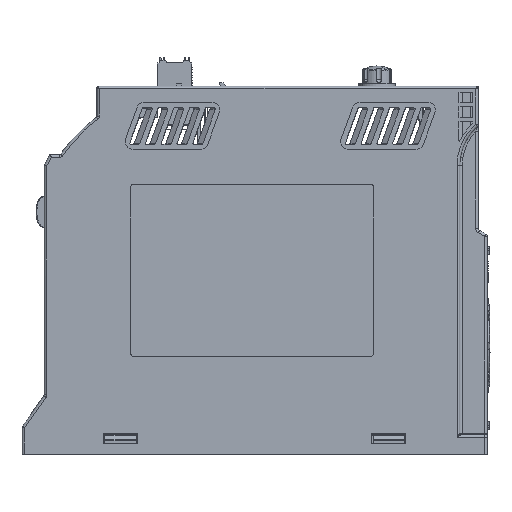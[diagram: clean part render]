
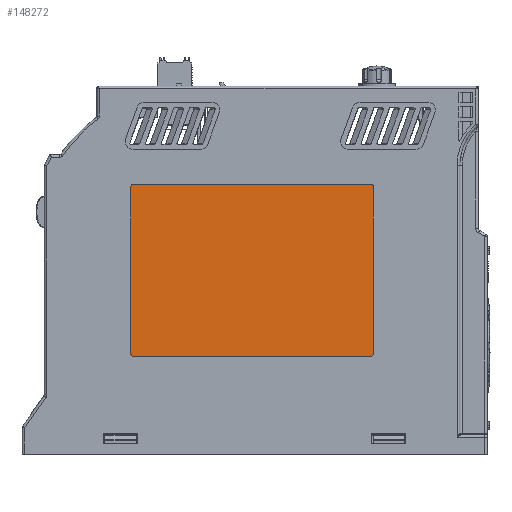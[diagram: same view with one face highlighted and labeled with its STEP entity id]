
A CAD part, top view. The second image highlights one B-rep face of the part: STEP entity #148272.
In plain terms, the highlighted planar face has unit normal (0, 0, 1).
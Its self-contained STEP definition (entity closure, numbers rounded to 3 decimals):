
#2744 = VECTOR ( 'NONE', #191328, 1000. ) ;
#4925 = CARTESIAN_POINT ( 'NONE',  ( -115.892, 15.828, 289.425 ) ) ;
#5916 = DIRECTION ( 'NONE',  ( 0., 0., 1. ) ) ;
#8455 = CIRCLE ( 'NONE', #166445, 1. ) ;
#8660 = VERTEX_POINT ( 'NONE', #122756 ) ;
#13226 = ORIENTED_EDGE ( 'NONE', *, *, #137934, .T. ) ;
#13898 = DIRECTION ( 'NONE',  ( 0., 0., 1. ) ) ;
#15325 = EDGE_CURVE ( 'NONE', #70950, #94351, #26382, .T. ) ;
#26382 = CIRCLE ( 'NONE', #75993, 1. ) ;
#27690 = EDGE_CURVE ( 'NONE', #71896, #177384, #8455, .T. ) ;
#30492 = CIRCLE ( 'NONE', #58318, 1. ) ;
#33194 = VERTEX_POINT ( 'NONE', #62171 ) ;
#36813 = ORIENTED_EDGE ( 'NONE', *, *, #50554, .T. ) ;
#39659 = CARTESIAN_POINT ( 'NONE',  ( -24.692, 15.828, 289.425 ) ) ;
#39799 = VECTOR ( 'NONE', #40606, 1000. ) ;
#40606 = DIRECTION ( 'NONE',  ( 0., -1., 0. ) ) ;
#45163 = CARTESIAN_POINT ( 'NONE',  ( -115.892, -48.672, 289.425 ) ) ;
#45901 = VERTEX_POINT ( 'NONE', #139565 ) ;
#46182 = AXIS2_PLACEMENT_3D ( 'NONE', #153340, #5916, #76826 ) ;
#48029 = LINE ( 'NONE', #91639, #167767 ) ;
#50501 = FACE_OUTER_BOUND ( 'NONE', #102814, .T. ) ;
#50554 = EDGE_CURVE ( 'NONE', #94351, #71896, #48029, .T. ) ;
#55523 = CIRCLE ( 'NONE', #46182, 1. ) ;
#56097 = CARTESIAN_POINT ( 'NONE',  ( -116.892, -47.672, 289.425 ) ) ;
#56653 = CARTESIAN_POINT ( 'NONE',  ( -25.692, 15.828, 289.425 ) ) ;
#58318 = AXIS2_PLACEMENT_3D ( 'NONE', #164164, #178684, #134072 ) ;
#62171 = CARTESIAN_POINT ( 'NONE',  ( -25.692, -48.672, 289.425 ) ) ;
#63443 = ORIENTED_EDGE ( 'NONE', *, *, #159652, .T. ) ;
#70950 = VERTEX_POINT ( 'NONE', #39659 ) ;
#71896 = VERTEX_POINT ( 'NONE', #82913 ) ;
#75993 = AXIS2_PLACEMENT_3D ( 'NONE', #56653, #13898, #103083 ) ;
#76826 = DIRECTION ( 'NONE',  ( 1., 0., 0. ) ) ;
#82913 = CARTESIAN_POINT ( 'NONE',  ( -115.892, 16.828, 289.425 ) ) ;
#83776 = LINE ( 'NONE', #115641, #2744 ) ;
#91639 = CARTESIAN_POINT ( 'NONE',  ( -115.892, 16.828, 289.425 ) ) ;
#93800 = AXIS2_PLACEMENT_3D ( 'NONE', #4925, #184330, #94118 ) ;
#94118 = DIRECTION ( 'NONE',  ( -1., 0., 0. ) ) ;
#94351 = VERTEX_POINT ( 'NONE', #96556 ) ;
#96556 = CARTESIAN_POINT ( 'NONE',  ( -25.692, 16.828, 289.425 ) ) ;
#102356 = DIRECTION ( 'NONE',  ( 1., 0., 0. ) ) ;
#102814 = EDGE_LOOP ( 'NONE', ( #156212, #13226, #63443, #143477, #184147, #153593, #172877, #36813 ) ) ;
#103083 = DIRECTION ( 'NONE',  ( -1., 0., 0. ) ) ;
#107628 = EDGE_CURVE ( 'NONE', #8660, #33194, #149816, .T. ) ;
#107886 = CARTESIAN_POINT ( 'NONE',  ( -115.892, 15.828, 289.425 ) ) ;
#111157 = EDGE_CURVE ( 'NONE', #45901, #70950, #83776, .T. ) ;
#115641 = CARTESIAN_POINT ( 'NONE',  ( -24.692, -47.672, 289.425 ) ) ;
#122464 = DIRECTION ( 'NONE',  ( 0., 0., 1. ) ) ;
#122756 = CARTESIAN_POINT ( 'NONE',  ( -115.892, -48.672, 289.425 ) ) ;
#128000 = VECTOR ( 'NONE', #102356, 1000. ) ;
#134072 = DIRECTION ( 'NONE',  ( -1., 0., 0. ) ) ;
#137934 = EDGE_CURVE ( 'NONE', #177384, #174981, #172502, .T. ) ;
#139565 = CARTESIAN_POINT ( 'NONE',  ( -24.692, -47.672, 289.425 ) ) ;
#143477 = ORIENTED_EDGE ( 'NONE', *, *, #107628, .T. ) ;
#148272 = ADVANCED_FACE ( 'NONE', ( #50501 ), #151311, .F. ) ;
#149816 = LINE ( 'NONE', #45163, #128000 ) ;
#151311 = PLANE ( 'NONE',  #93800 ) ;
#153340 = CARTESIAN_POINT ( 'NONE',  ( -25.692, -47.672, 289.425 ) ) ;
#153593 = ORIENTED_EDGE ( 'NONE', *, *, #111157, .T. ) ;
#156212 = ORIENTED_EDGE ( 'NONE', *, *, #27690, .T. ) ;
#159652 = EDGE_CURVE ( 'NONE', #174981, #8660, #30492, .T. ) ;
#163437 = DIRECTION ( 'NONE',  ( -1., 0., 0. ) ) ;
#164164 = CARTESIAN_POINT ( 'NONE',  ( -115.892, -47.672, 289.425 ) ) ;
#166445 = AXIS2_PLACEMENT_3D ( 'NONE', #107886, #122464, #168114 ) ;
#167767 = VECTOR ( 'NONE', #163437, 1000. ) ;
#168114 = DIRECTION ( 'NONE',  ( -1., 0., 0. ) ) ;
#171506 = EDGE_CURVE ( 'NONE', #33194, #45901, #55523, .T. ) ;
#172502 = LINE ( 'NONE', #56097, #39799 ) ;
#172877 = ORIENTED_EDGE ( 'NONE', *, *, #15325, .T. ) ;
#174981 = VERTEX_POINT ( 'NONE', #176378 ) ;
#176378 = CARTESIAN_POINT ( 'NONE',  ( -116.892, -47.672, 289.425 ) ) ;
#177384 = VERTEX_POINT ( 'NONE', #177465 ) ;
#177465 = CARTESIAN_POINT ( 'NONE',  ( -116.892, 15.828, 289.425 ) ) ;
#178684 = DIRECTION ( 'NONE',  ( 0., 0., 1. ) ) ;
#184147 = ORIENTED_EDGE ( 'NONE', *, *, #171506, .T. ) ;
#184330 = DIRECTION ( 'NONE',  ( 0., 0., -1. ) ) ;
#191328 = DIRECTION ( 'NONE',  ( 0., 1., 0. ) ) ;
